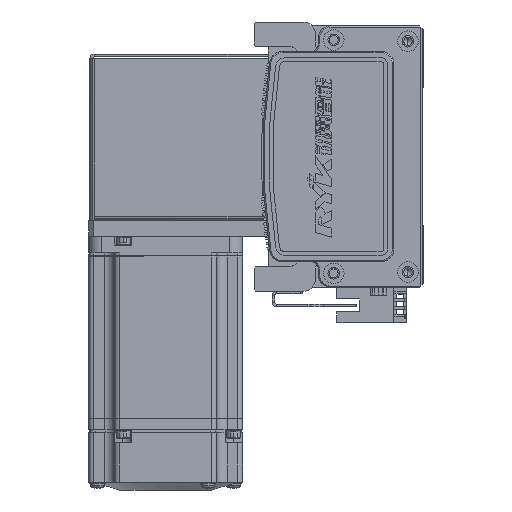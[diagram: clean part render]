
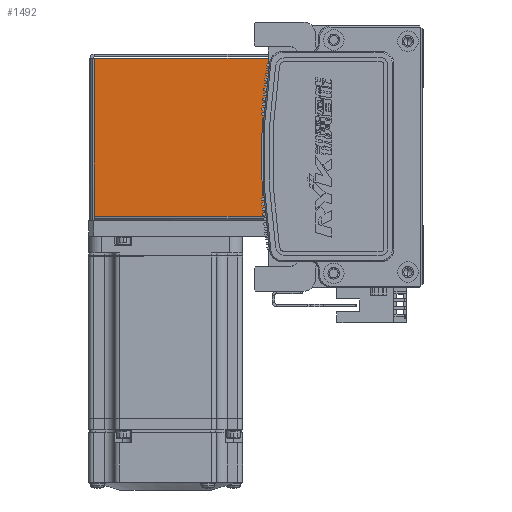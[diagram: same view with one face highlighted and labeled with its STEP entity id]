
A CAD part, left-side view. The second image highlights one B-rep face of the part: STEP entity #1492.
In plain terms, the highlighted planar face has unit normal (-1, 0, 0) as drawn and (0, 0, 1) by its records, which use the part's own axes.
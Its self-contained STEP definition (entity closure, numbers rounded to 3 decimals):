
#299 = VERTEX_POINT ( 'NONE', #27662 ) ;
#1492 = ADVANCED_FACE ( 'NONE', ( #3576 ), #33167, .F. ) ;
#3576 = FACE_OUTER_BOUND ( 'NONE', #13625, .T. ) ;
#6183 = DIRECTION ( 'NONE',  ( -1., 0., 0. ) ) ;
#9430 = CARTESIAN_POINT ( 'NONE',  ( 0., 68.5, 35. ) ) ;
#10284 = LINE ( 'NONE', #53591, #66208 ) ;
#12023 = VERTEX_POINT ( 'NONE', #30980 ) ;
#13306 = LINE ( 'NONE', #41214, #20990 ) ;
#13625 = EDGE_LOOP ( 'NONE', ( #27591, #16716, #66615, #24041 ) ) ;
#16716 = ORIENTED_EDGE ( 'NONE', *, *, #64515, .T. ) ;
#19886 = DIRECTION ( 'NONE',  ( -1., 0., 0. ) ) ;
#20051 = EDGE_CURVE ( 'NONE', #299, #12023, #13306, .T. ) ;
#20990 = VECTOR ( 'NONE', #48065, 1000. ) ;
#24041 = ORIENTED_EDGE ( 'NONE', *, *, #60548, .F. ) ;
#27591 = ORIENTED_EDGE ( 'NONE', *, *, #20051, .T. ) ;
#27662 = CARTESIAN_POINT ( 'NONE',  ( 30.763, 0.737, 35. ) ) ;
#28335 = CARTESIAN_POINT ( 'NONE',  ( -30.793, 68.5, 35. ) ) ;
#30980 = CARTESIAN_POINT ( 'NONE',  ( 30.763, 68.5, 35. ) ) ;
#33167 = PLANE ( 'NONE',  #61938 ) ;
#34048 = CARTESIAN_POINT ( 'NONE',  ( -30.793, 0.737, 35. ) ) ;
#34626 = LINE ( 'NONE', #9430, #65172 ) ;
#37026 = DIRECTION ( 'NONE',  ( 0., 1., 0. ) ) ;
#41214 = CARTESIAN_POINT ( 'NONE',  ( 30.763, 0.737, 35. ) ) ;
#42477 = CARTESIAN_POINT ( 'NONE',  ( -30.793, 0., 35. ) ) ;
#47443 = DIRECTION ( 'NONE',  ( -1., 0., 0. ) ) ;
#48065 = DIRECTION ( 'NONE',  ( 0., 1., 0. ) ) ;
#49151 = VECTOR ( 'NONE', #37026, 1000. ) ;
#49994 = CARTESIAN_POINT ( 'NONE',  ( 0., 0., 35. ) ) ;
#50816 = LINE ( 'NONE', #42477, #49151 ) ;
#53539 = VERTEX_POINT ( 'NONE', #34048 ) ;
#53591 = CARTESIAN_POINT ( 'NONE',  ( -32.5, 0.737, 35. ) ) ;
#54022 = VERTEX_POINT ( 'NONE', #28335 ) ;
#55434 = DIRECTION ( 'NONE',  ( 0., 0., -1. ) ) ;
#60548 = EDGE_CURVE ( 'NONE', #299, #53539, #10284, .T. ) ;
#61938 = AXIS2_PLACEMENT_3D ( 'NONE', #49994, #55434, #6183 ) ;
#64156 = EDGE_CURVE ( 'NONE', #53539, #54022, #50816, .T. ) ;
#64515 = EDGE_CURVE ( 'NONE', #12023, #54022, #34626, .T. ) ;
#65172 = VECTOR ( 'NONE', #19886, 1000. ) ;
#66208 = VECTOR ( 'NONE', #47443, 1000. ) ;
#66615 = ORIENTED_EDGE ( 'NONE', *, *, #64156, .F. ) ;
